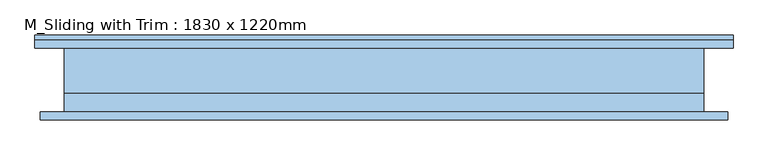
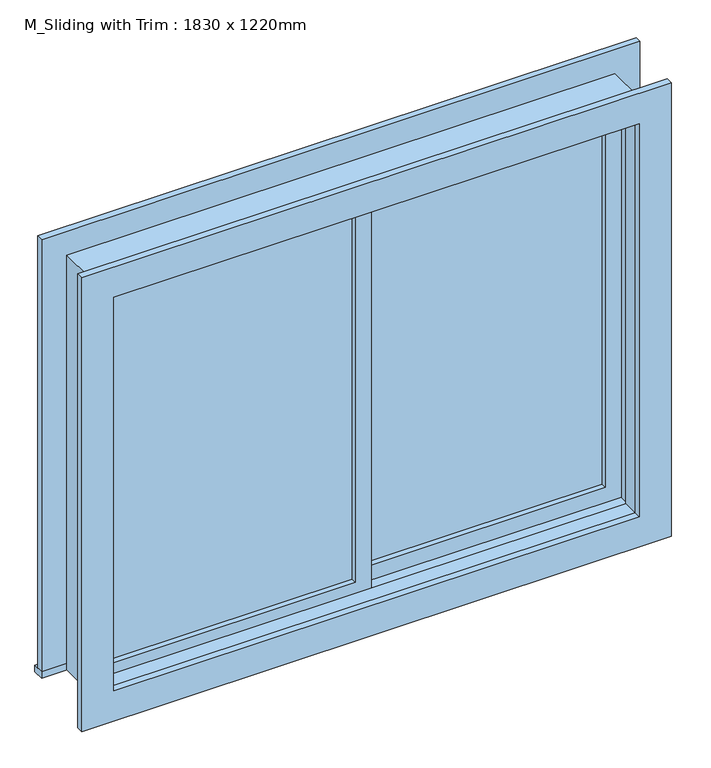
"""IFC4 building model written with IfcOpenShell, lengths in millimetres: window geometry, M_Sliding with Trim : 1830 x 1220mm."""

from ifc_helpers import new_model, si_unit, frame, origin, place, context, project, spatial, polyline, outline, extrude, source, transform, mapped, element, save


def m_sliding_with_trim_1830_x_1220mm_c09c27c4(model_context):
    return source(origin(), model_context, "Body", "SweptSolid", [
        extrude(outline(polyline([(-698.5, -3.175), (-22.225, -3.175), (-22.225, -15.875), (-698.5, -15.875), (-698.5, -3.175)])), frame((0.0, 0.0, 977.9), z_axis=(0.0, 0.0, 1.0), x_axis=(1.0, 0.0, 0.0)), (0.0, 0.0, 1.0), 1092.2),
        extrude(outline(polyline([(2114.55, -742.95), (933.45, -742.95), (933.45, 22.225), (2114.55, 22.225), (2114.55, -742.95)]), holes=[polyline([(2070.1, -698.5), (2070.1, -22.225), (977.9, -22.225), (977.9, -698.5), (2070.1, -698.5)])]), frame((0.0, -31.75, 0.0), z_axis=(0.0, 1.0, 0.0), x_axis=(0.0, 0.0, 1.0)), (0.0, 0.0, 1.0), 44.45),
        extrude(outline(polyline([(-831.85, 107.95), (831.85, 107.95), (831.85, 76.2), (-831.85, 76.2), (-831.85, 107.95)])), frame((0.0, 0.0, 914.4), z_axis=(0.0, 0.0, 1.0), x_axis=(1.0, 0.0, 0.0)), (0.0, 0.0, 1.0), 19.05),
        extrude(outline(polyline([(2114.55, -742.95), (2114.55, 742.95), (933.45, 742.95), (933.45, 831.85), (2203.45, 831.85), (2203.45, -831.85), (933.45, -831.85), (933.45, -742.95), (2114.55, -742.95)])), frame((0.0, 76.2, 0.0), z_axis=(0.0, 1.0, 0.0), x_axis=(0.0, 0.0, 1.0)), (0.0, 0.0, 1.0), 19.05),
        extrude(outline(polyline([(2190.75, 819.15), (2190.75, -819.15), (857.25, -819.15), (857.25, 819.15), (2190.75, 819.15)]), holes=[polyline([(2101.85, 730.25), (946.15, 730.25), (946.15, -730.25), (2101.85, -730.25), (2101.85, 730.25)])]), frame((0.0, -95.25, 0.0), z_axis=(0.0, 1.0, 0.0), x_axis=(0.0, 0.0, 1.0)), (0.0, 0.0, 1.0), 19.05),
        extrude(outline(polyline([(698.5, 28.575), (22.225, 28.575), (22.225, 41.275), (698.5, 41.275), (698.5, 28.575)])), frame((0.0, 0.0, 977.9), z_axis=(0.0, 0.0, 1.0), x_axis=(1.0, 0.0, 0.0)), (0.0, 0.0, 1.0), 1092.2),
        extrude(outline(polyline([(2114.55, -22.225), (933.45, -22.225), (933.45, 742.95), (2114.55, 742.95), (2114.55, -22.225)]), holes=[polyline([(2070.1, 22.225), (2070.1, 698.5), (977.9, 698.5), (977.9, 22.225), (2070.1, 22.225)])]), frame((0.0, 12.7, 0.0), z_axis=(0.0, 1.0, 0.0), x_axis=(0.0, 0.0, 1.0)), (0.0, 0.0, 1.0), 44.45),
        extrude(outline(polyline([(2133.6, -762.0), (914.4, -762.0), (914.4, 762.0), (2133.6, 762.0), (2133.6, -762.0)]), holes=[polyline([(2101.85, -730.25), (2101.85, 730.25), (946.15, 730.25), (946.15, -730.25), (2101.85, -730.25)])]), frame((0.0, -76.2, 0.0), z_axis=(0.0, 1.0, 0.0), x_axis=(0.0, 0.0, 1.0)), (0.0, 0.0, 1.0), 44.45),
        extrude(outline(polyline([(2133.6, 762.0), (2133.6, -762.0), (914.4, -762.0), (914.4, 762.0), (2133.6, 762.0)]), holes=[polyline([(2114.55, 742.95), (933.45, 742.95), (933.45, -742.95), (2114.55, -742.95), (2114.55, 742.95)])]), frame((0.0, -31.75, 0.0), z_axis=(0.0, 1.0, 0.0), x_axis=(0.0, 0.0, 1.0)), (0.0, 0.0, 1.0), 107.95),
    ])


if __name__ == "__main__":
    model = new_model("IFC4")
    model_context = context("Model", 3, world=origin())
    ifc_project = project(units=[si_unit("LENGTHUNIT", "METRE", prefix="MILLI")], contexts=[model_context])
    site = spatial("IfcSite", under=ifc_project)
    building = spatial("IfcBuilding", under=site)
    placement = place(None, origin())
    m_sliding_with_trim_1830_x_1220mm_shape = m_sliding_with_trim_1830_x_1220mm_c09c27c4(model_context)
    element("IfcWindow", 1, ObjectType="M_Sliding with Trim : 1830 x 1220mm", at=placement, inside=building, context=model_context, shape_type="MappedRepresentation", body=[
        mapped(m_sliding_with_trim_1830_x_1220mm_shape, transform((0.0, 0.0, 0.0), x_axis=(1.0, 0.0, 0.0), y_axis=(0.0, 1.0, 0.0), z_axis=(0.0, 0.0, 1.0))),
    ])
    save(model, "model.ifc")
